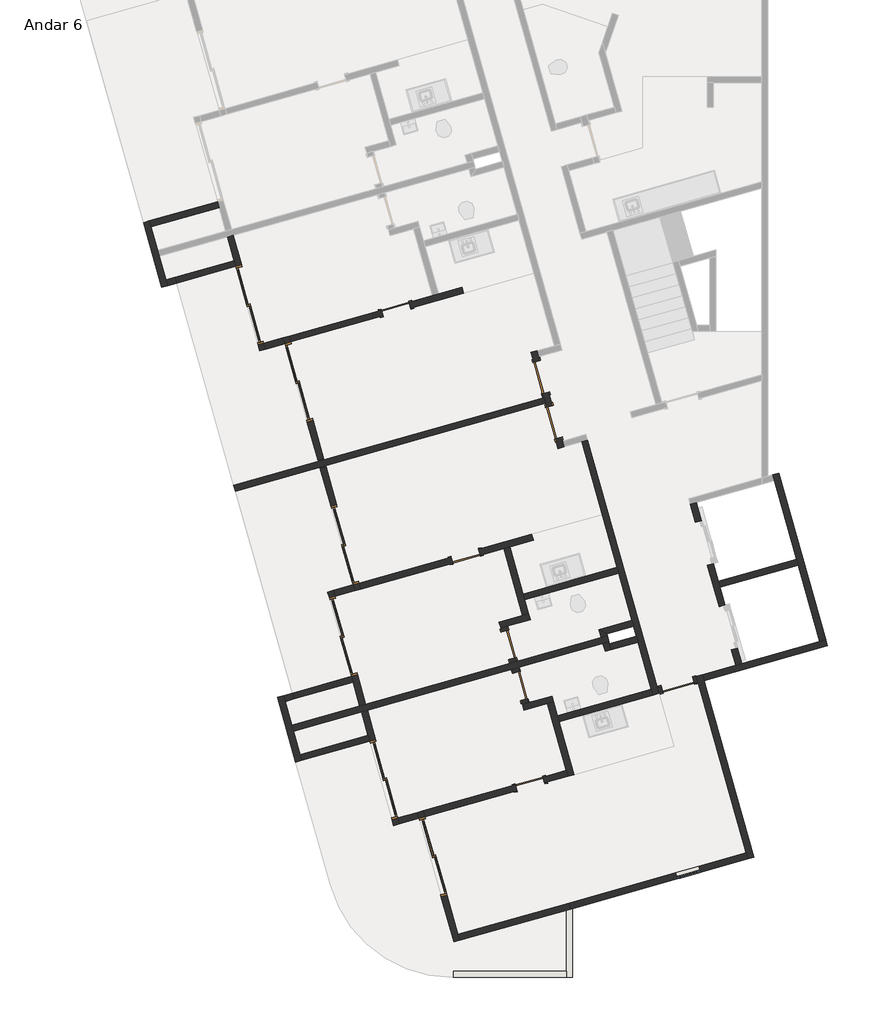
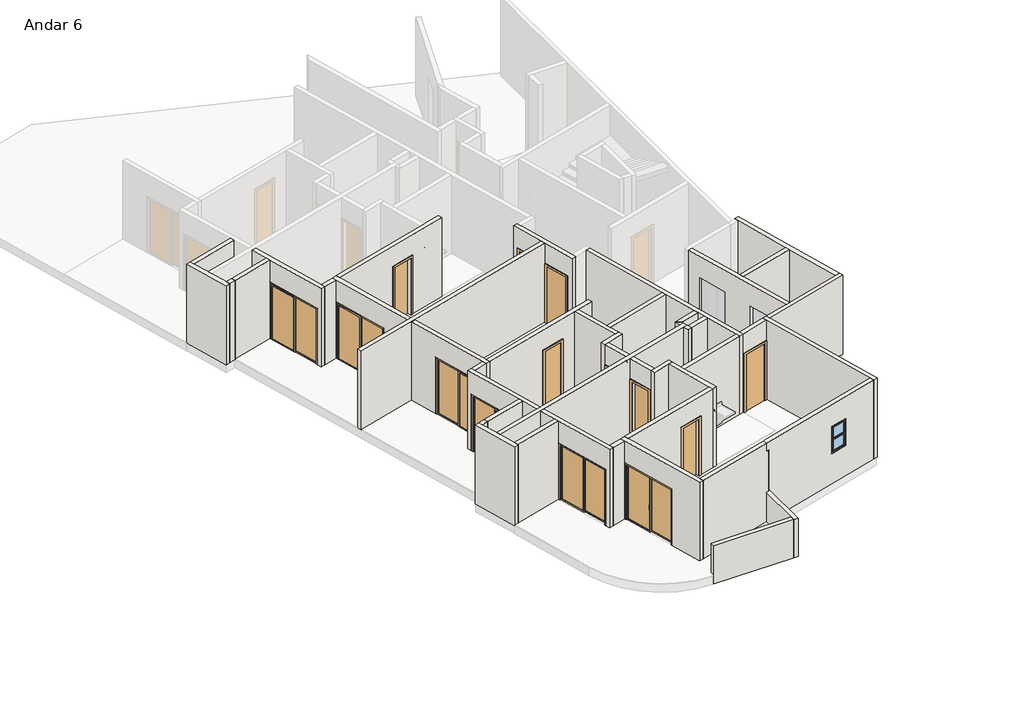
# One storey, part 1 of 3: 46 walls, 14 doors, 1 window.
"""IFC4 building model written with IfcOpenShell, lengths in millimetres."""

from ifc_helpers import new_model, si_unit, frame, origin, place, context, project, spatial, polyline, outline, extrude, faceted_brep, transform, mapped, element, save
from components import p2_80cm_9d4be4ef, p2_80cm_083652d6, p3_70cm_ef4d15e3, p3_70cm_0a698c7c, p4_correr_200cm_eaaa0877, p4_correr_200cm_830b8f20, bx_60cm_cef95a5c

model = new_model("IFC4")

# Units and contexts
model_context = context("Model", 3, world=origin())
ifc_project = project(units=[si_unit("LENGTHUNIT", "METRE", prefix="MILLI")], contexts=[model_context])

# Site, building, storey
site = spatial("IfcSite", under=ifc_project)
building = spatial("IfcBuilding", under=site)
storey = spatial("IfcBuildingStorey", under=building, Name="Andar 6", Elevation=68150.0)

# Doors
placement = place(None, origin())
p2_80cm_shape = p2_80cm_9d4be4ef(model_context)
element("IfcDoor", 1, ObjectType="M_Folha única1 : P2 - 80CM", at=placement, inside=storey, context=model_context, shape_type="MappedRepresentation", body=[
    mapped(p2_80cm_shape, transform((-80566.3456776, 19693.5423602, 68150.0), x_axis=(0.2717679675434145, -0.9623628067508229, 0.0), y_axis=(0.9623628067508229, 0.2717679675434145, 0.0), z_axis=(0.0, 0.0, 1.0))),
])
element("IfcDoor", 2, ObjectType="M_Folha única1 : P2 - 80CM", at=placement, inside=storey, context=model_context, shape_type="MappedRepresentation", body=[
    mapped(p2_80cm_shape, transform((-77213.6668366, 12144.847648, 68150.0), x_axis=(0.9623628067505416, 0.2717679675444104, 0.0), y_axis=(-0.2717679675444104, 0.9623628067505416, 0.0), z_axis=(0.0, 0.0, 1.0))),
])
p2_80cm_2_shape = p2_80cm_083652d6(model_context)
element("IfcDoor", 3, ObjectType="M_Folha única1 : P2 - 80CM", at=placement, inside=storey, context=model_context, shape_type="MappedRepresentation", body=[
    mapped(p2_80cm_2_shape, transform((-80253.8125149, 18586.8251325, 68150.0), x_axis=(-0.2717679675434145, 0.9623628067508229, 0.0), y_axis=(-0.9623628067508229, -0.2717679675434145, 0.0), z_axis=(0.0, 0.0, 1.0))),
])
p3_70cm_shape = p3_70cm_ef4d15e3(model_context)
element("IfcDoor", 4, ObjectType="M_Folha única1 : P3 - 70CM", at=placement, inside=storey, context=model_context, shape_type="MappedRepresentation", body=[
    mapped(p3_70cm_shape, transform((-84129.1775441, 21363.1168842, 68150.0), x_axis=(0.9623628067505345, 0.27176796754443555, 0.0), y_axis=(-0.27176796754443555, 0.9623628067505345, 0.0), z_axis=(0.0, 0.0, 1.0))),
])
element("IfcDoor", 5, ObjectType="M_Folha única1 : P3 - 70CM", at=placement, inside=storey, context=model_context, shape_type="MappedRepresentation", body=[
    mapped(p3_70cm_shape, transform((-80840.7851368, 9718.5269225, 68150.0), x_axis=(0.9623628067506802, 0.2717679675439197, 0.0), y_axis=(-0.2717679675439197, 0.9623628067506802, 0.0), z_axis=(0.0, 0.0, 1.0))),
])
element("IfcDoor", 6, ObjectType="M_Folha única1 : P3 - 70CM", at=placement, inside=storey, context=model_context, shape_type="MappedRepresentation", body=[
    mapped(p3_70cm_shape, transform((-81362.5862327, 13130.1209218, 68150.0), x_axis=(0.27176796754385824, -0.9623628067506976, 0.0), y_axis=(0.9623628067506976, 0.27176796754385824, 0.0), z_axis=(0.0, 0.0, 1.0))),
])
p3_70cm_2_shape = p3_70cm_0a698c7c(model_context)
element("IfcDoor", 7, ObjectType="M_Folha única1 : P3 - 70CM", at=placement, inside=storey, context=model_context, shape_type="MappedRepresentation", body=[
    mapped(p3_70cm_2_shape, transform((-81077.2298668, 12119.6399747, 68150.0), x_axis=(-0.27176796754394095, 0.9623628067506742, 0.0), y_axis=(-0.9623628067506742, -0.27176796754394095, 0.0), z_axis=(0.0, 0.0, 1.0))),
])
element("IfcDoor", 8, ObjectType="M_Folha única1 : P3 - 70CM", at=placement, inside=storey, context=model_context, shape_type="MappedRepresentation", body=[
    mapped(p3_70cm_2_shape, transform((-82417.0393485, 15300.2312016, 68150.0), x_axis=(0.9623628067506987, 0.2717679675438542, 0.0), y_axis=(-0.2717679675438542, 0.9623628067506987, 0.0), z_axis=(0.0, 0.0, 1.0))),
])
p4_correr_200cm_shape = p4_correr_200cm_eaaa0877(model_context)
element("IfcDoor", 9, ObjectType="Porta de correr dupla envidraçada sem revestimento : P4 - CORRER - 200CM", at=placement, inside=storey, context=model_context, shape_type="MappedRepresentation", body=[
    mapped(p4_correr_200cm_shape, transform((-86511.4049952, 19573.3416554, 68150.0), x_axis=(0.2717679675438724, -0.9623628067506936, 0.0), y_axis=(0.9623628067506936, 0.2717679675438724, 0.0), z_axis=(0.0, 0.0, 1.0))),
])
element("IfcDoor", 10, ObjectType="Porta de correr dupla envidraçada sem revestimento : P4 - CORRER - 200CM", at=placement, inside=storey, context=model_context, shape_type="MappedRepresentation", body=[
    mapped(p4_correr_200cm_shape, transform((-87717.4207223, 21466.8516126, 68150.0), x_axis=(0.2717679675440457, -0.9623628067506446, 0.0), y_axis=(0.9623628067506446, 0.2717679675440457, 0.0), z_axis=(0.0, 0.0, 1.0))),
])
element("IfcDoor", 11, ObjectType="Porta de correr dupla envidraçada sem revestimento : P4 - CORRER - 200CM", at=placement, inside=storey, context=model_context, shape_type="MappedRepresentation", body=[
    mapped(p4_correr_200cm_shape, transform((-84429.028315, 9822.2616509, 68150.0), x_axis=(-0.27176796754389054, 0.9623628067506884, 0.0), y_axis=(-0.9623628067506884, -0.27176796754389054, 0.0), z_axis=(0.0, 0.0, 1.0))),
])
element("IfcDoor", 12, ObjectType="Porta de correr dupla envidraçada sem revestimento : P4 - CORRER - 200CM", at=placement, inside=storey, context=model_context, shape_type="MappedRepresentation", body=[
    mapped(p4_correr_200cm_shape, transform((-83223.012588, 7928.7516937, 68150.0), x_axis=(-0.2717679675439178, 0.9623628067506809, 0.0), y_axis=(-0.9623628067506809, -0.2717679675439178, 0.0), z_axis=(0.0, 0.0, 1.0))),
])
p4_correr_200cm_2_shape = p4_correr_200cm_830b8f20(model_context)
element("IfcDoor", 13, ObjectType="Porta de correr dupla envidraçada sem revestimento : P4 - CORRER - 200CM", at=placement, inside=storey, context=model_context, shape_type="MappedRepresentation", body=[
    mapped(p4_correr_200cm_2_shape, transform((-85383.5679299, 15579.5360073, 68150.0), x_axis=(-0.2717679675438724, 0.9623628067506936, 0.0), y_axis=(-0.9623628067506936, -0.2717679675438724, 0.0), z_axis=(0.0, 0.0, 1.0))),
])
element("IfcDoor", 14, ObjectType="Porta de correr dupla envidraçada sem revestimento : P4 - CORRER - 200CM", at=placement, inside=storey, context=model_context, shape_type="MappedRepresentation", body=[
    mapped(p4_correr_200cm_2_shape, transform((-85420.9813965, 13334.8858955, 68150.0), x_axis=(-0.27176796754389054, 0.9623628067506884, 0.0), y_axis=(-0.9623628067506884, -0.27176796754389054, 0.0), z_axis=(0.0, 0.0, 1.0))),
])

# Walls
element("IfcWall", 15, ObjectType="Básica .15 - Externa", at=placement, inside=storey, context=model_context, shape_type="Brep", body=[
    faceted_brep([(-75344.9919691, 7919.3931149, 68150.0), (-76567.7484146, 12249.3196164, 68150.0), (-76608.5136097, 12393.6740374, 68150.0), (-76608.5136097, 12393.6740374, 71050.0), (-76567.7484146, 12249.3196164, 71050.0), (-75344.9919691, 7919.3931149, 71050.0), (-75489.3463901, 7878.6279198, 68150.0), (-75489.3463901, 7878.6279198, 71050.0), (-75530.1115852, 8022.9823408, 71050.0), (-76712.1028356, 12208.5544213, 71050.0), (-76752.8680308, 12352.9088423, 71050.0), (-76752.8680308, 12352.9088423, 68150.0), (-76712.1028356, 12208.5544213, 68150.0), (-75530.1115852, 8022.9823408, 68150.0)], [[[0, 1, 2, 3, 4, 5]], [[6, 7, 8, 9, 10, 11, 12, 13]], [[2, 1, 0, 6, 13, 12, 11]], [[5, 4, 3, 10, 9, 8, 7]], [[0, 5, 7, 6]], [[3, 2, 11, 10]]]),
])
element("IfcWall", 16, ObjectType="Básica .15 -  Interna", at=placement, inside=storey, context=model_context, shape_type="Brep", body=[
    faceted_brep([(-80529.815701, 19288.21464, 68150.0), (-80502.6389043, 19191.9783593, 68150.0), (-80461.8737092, 19047.6239383, 68150.0), (-80434.6969124, 18951.3876576, 68150.0), (-80434.6969124, 18951.3876576, 70250.0), (-80217.2825384, 18181.4974122, 70250.0), (-80217.2825384, 18181.4974122, 68150.0), (-80149.3405465, 17940.9067105, 68150.0), (-80149.3405465, 17940.9067105, 71050.0), (-80461.8737092, 19047.6239383, 71050.0), (-80502.6389043, 19191.9783593, 71050.0), (-80815.172067, 20298.695587, 71050.0), (-80815.172067, 20298.695587, 68150.0), (-80747.2300751, 20058.1048854, 68150.0), (-80747.2300751, 20058.1048854, 70250.0), (-80529.815701, 19288.21464, 70250.0), (-80290.3424914, 18992.1528527, 70250.0), (-80290.3424914, 18992.1528527, 68150.0), (-80385.46128, 19328.9798351, 68150.0), (-80385.46128, 19328.9798351, 70250.0), (-80602.8756541, 20098.8700805, 70250.0), (-80602.8756541, 20098.8700805, 68150.0), (-80630.0524508, 20195.1063612, 68150.0), (-80670.817646, 20339.4607822, 68150.0), (-80670.817646, 20339.4607822, 71050.0), (-80630.0524508, 20195.1063612, 71050.0), (-80045.7513206, 18126.0263266, 71050.0), (-80004.9861255, 17981.6719056, 71050.0), (-80004.9861255, 17981.6719056, 68150.0), (-80045.7513206, 18126.0263266, 68150.0), (-80072.9281174, 18222.2626073, 68150.0), (-80072.9281174, 18222.2626073, 70250.0)], [[[0, 1, 2, 3, 4, 5, 6, 7, 8, 9, 10, 11, 12, 13, 14, 15]], [[16, 17, 18, 19, 20, 21, 22, 23, 24, 25, 26, 27, 28, 29, 30, 31]], [[13, 12, 23, 22, 21]], [[18, 17, 3, 2, 1, 0]], [[30, 29, 28, 7, 6]], [[11, 10, 9, 8, 27, 26, 25, 24]], [[12, 11, 24, 23]], [[8, 7, 28, 27]], [[19, 18, 0, 15]], [[20, 19, 15, 14]], [[21, 20, 14, 13]], [[4, 3, 17, 16]], [[5, 4, 16, 31]], [[6, 5, 31, 30]]]),
])
element("IfcWall", 17, ObjectType="Básica .15 -  Interna", at=placement, inside=storey, context=model_context, shape_type="Brep", body=[
    faceted_brep([(-79571.9228624, 18103.967491, 68150.0), (-78702.2653663, 15024.4065094, 68150.0), (-78661.5001712, 14880.0520884, 68150.0), (-78335.3786101, 13725.2167203, 68150.0), (-78294.613415, 13580.8622993, 68150.0), (-78226.6714231, 13340.2715976, 68150.0), (-78185.906228, 13195.9171766, 68150.0), (-77818.8200634, 11896.0212586, 68150.0), (-77818.8200634, 11896.0212586, 71050.0), (-78185.906228, 13195.9171766, 71050.0), (-78226.6714231, 13340.2715976, 71050.0), (-78294.613415, 13580.8622993, 71050.0), (-78335.3786101, 13725.2167203, 71050.0), (-78661.5001712, 14880.0520884, 71050.0), (-78702.2653663, 15024.4065094, 71050.0), (-79571.9228624, 18103.967491, 71050.0), (-79427.5684414, 18144.7326862, 68150.0), (-79427.5684414, 18144.7326862, 71050.0), (-77715.2308375, 12081.1408747, 71050.0), (-77674.4656424, 11936.7864537, 71050.0), (-77674.4656424, 11936.7864537, 68150.0), (-77715.2308375, 12081.1408747, 68150.0)], [[[0, 1, 2, 3, 4, 5, 6, 7, 8, 9, 10, 11, 12, 13, 14, 15]], [[16, 17, 18, 19, 20, 21]], [[7, 6, 5, 4, 3, 2, 1, 0, 16, 21, 20]], [[15, 14, 13, 12, 11, 10, 9, 8, 19, 18, 17]], [[0, 15, 17, 16]], [[8, 7, 20, 19]]]),
])
element("IfcWall", 18, ObjectType="Básica .15 -  Interna", at=placement, inside=storey, context=model_context, shape_type="Brep", body=[
    faceted_brep([(-85017.5646639, 11630.3683862, 71050.0), (-85180.6254444, 12207.7860702, 71050.0), (-85221.3906395, 12352.1404912, 71050.0), (-85805.6917697, 14421.2205257, 71050.0), (-85805.6917697, 14421.2205257, 68150.0), (-85764.9265746, 14276.8661047, 68150.0), (-85764.9265746, 14276.8661047, 70250.0), (-85221.3906395, 12352.1404912, 70250.0), (-85221.3906395, 12352.1404912, 68150.0), (-85180.6254444, 12207.7860702, 68150.0), (-85017.5646639, 11630.3683862, 68150.0), (-85661.3373487, 14461.9857209, 71050.0), (-85620.5721536, 14317.6312998, 71050.0), (-84873.2102428, 11671.1335813, 71050.0), (-84873.2102428, 11671.1335813, 68150.0), (-85077.0362185, 12392.9056863, 68150.0), (-85077.0362185, 12392.9056863, 70250.0), (-85620.5721536, 14317.6312998, 70250.0), (-85620.5721536, 14317.6312998, 68150.0), (-85661.3373487, 14461.9857209, 68150.0)], [[[0, 1, 2, 3, 4, 5, 6, 7, 8, 9, 10]], [[11, 12, 13, 14, 15, 16, 17, 18, 19]], [[4, 19, 18, 5]], [[14, 10, 9, 8, 15]], [[3, 2, 1, 0, 13, 12, 11]], [[4, 3, 11, 19]], [[0, 10, 14, 13]], [[17, 6, 5, 18]], [[6, 17, 16, 7]], [[7, 16, 15, 8]]]),
])
element("IfcWall", 19, ObjectType="Básica .15 -  Interna", at=placement, inside=storey, context=model_context, shape_type="Brep", body=[
    faceted_brep([(-82710.8886682, 5839.2890616, 71050.0), (-83566.957766, 8870.7319029, 71050.0), (-83607.7229611, 9015.0863239, 71050.0), (-83607.7229611, 9015.0863239, 68150.0), (-83566.957766, 8870.7319029, 68150.0), (-83566.957766, 8870.7319029, 70250.0), (-83023.4218309, 6946.0062894, 70250.0), (-83023.4218309, 6946.0062894, 68150.0), (-82710.8886682, 5839.2890616, 68150.0), (-83463.3685401, 9055.851519, 71050.0), (-83422.603345, 8911.497098, 71050.0), (-82607.2994424, 6024.4086777, 71050.0), (-82566.5342472, 5880.0542567, 71050.0), (-82566.5342472, 5880.0542567, 68150.0), (-82607.2994424, 6024.4086777, 68150.0), (-82879.0674099, 6986.7714845, 68150.0), (-82879.0674099, 6986.7714845, 70250.0), (-83422.603345, 8911.497098, 70250.0), (-83422.603345, 8911.497098, 68150.0), (-83463.3685401, 9055.851519, 68150.0)], [[[0, 1, 2, 3, 4, 5, 6, 7, 8]], [[9, 10, 11, 12, 13, 14, 15, 16, 17, 18, 19]], [[3, 19, 18, 4]], [[13, 8, 7, 15, 14]], [[2, 1, 0, 12, 11, 10, 9]], [[3, 2, 9, 19]], [[0, 8, 13, 12]], [[17, 5, 4, 18]], [[5, 17, 16, 6]], [[6, 16, 15, 7]]]),
])
element("IfcWall", 20, ObjectType="Básica .15 -  Interna", at=placement, inside=storey, context=model_context, shape_type="Brep", body=[
    faceted_brep([(-86046.8404698, 17652.2925145, 68150.0), (-86046.8404698, 17652.2925145, 71050.0), (-86855.3501733, 20515.3218646, 71050.0), (-86896.1153684, 20659.6762856, 71050.0), (-86896.1153684, 20659.6762856, 68150.0), (-86855.3501733, 20515.3218646, 68150.0), (-86855.3501733, 20515.3218646, 70250.0), (-86311.8142382, 18590.596251, 70250.0), (-86311.8142382, 18590.596251, 68150.0), (-85902.4860488, 17693.0577096, 71050.0), (-85902.4860488, 17693.0577096, 68150.0), (-86167.4598172, 18631.3614462, 68150.0), (-86167.4598172, 18631.3614462, 70250.0), (-86710.9957523, 20556.0870597, 70250.0), (-86710.9957523, 20556.0870597, 68150.0), (-86751.7609474, 20700.4414807, 68150.0), (-86751.7609474, 20700.4414807, 71050.0), (-86710.9957523, 20556.0870597, 71050.0)], [[[0, 1, 2, 3, 4, 5, 6, 7, 8]], [[9, 10, 11, 12, 13, 14, 15, 16, 17]], [[10, 0, 8, 11]], [[4, 15, 14, 5]], [[1, 0, 10, 9]], [[3, 2, 1, 9, 17, 16]], [[4, 3, 16, 15]], [[7, 12, 11, 8]], [[12, 7, 6, 13]], [[13, 6, 5, 14]]]),
])
element("IfcWall", 21, ObjectType="Básica .15 - Externa", at=placement, inside=storey, context=model_context, shape_type="Brep", body=[
    faceted_brep([(-79945.4990038, 6620.2256515, 69250.0), (-79945.4990038, 6620.2256515, 68150.0), (-79945.4990038, 6620.2256515, 67850.0), (-79945.4990038, 5119.4122055, 67850.0), (-79945.4990038, 4969.4122055, 67850.0), (-79945.4990038, 4969.4122055, 69250.0), (-79945.4990038, 5119.4122055, 69250.0), (-79795.4990038, 6662.5851389, 67850.0), (-79795.4990038, 6662.5851389, 69250.0), (-79795.4990038, 4969.4122055, 69250.0), (-79795.4990038, 4969.4122055, 67850.0), (-79850.1164062, 6647.1613711, 67850.0)], [[[0, 1, 2, 3, 4, 5, 6]], [[7, 8, 9, 10]], [[4, 3, 2, 11, 7, 10]], [[0, 6, 5, 9, 8]], [[5, 4, 10, 9]], [[0, 8, 7, 11, 2, 1]]]),
])
element("IfcWall", 22, ObjectType="Básica .15 - Externa", at=placement, inside=storey, context=model_context, shape_type="SweptSolid", body=[
    extrude(outline(polyline([(-82713.5540687, 5119.4122055), (-79945.4990038, 5119.4122055), (-79945.4990038, 4969.4122055), (-82713.5540687, 4969.4122055), (-82713.5540687, 5119.4122055)])), frame((0.0, 0.0, 67850.0), z_axis=(0.0, 0.0, 1.0), x_axis=(1.0, 0.0, 0.0)), (0.0, 0.0, 1.0), 1400.0),
])
element("IfcWall", 23, ObjectType="Básica .15 - Externa", at=placement, inside=storey, context=model_context, shape_type="Brep", body=[
    faceted_brep([(-73581.8825825, 13248.3842954, 68150.0), (-73726.2370035, 13207.6191002, 68150.0), (-75646.150803, 12665.442005, 68150.0), (-75790.505224, 12624.6768098, 68150.0), (-76608.5136097, 12393.6740374, 68150.0), (-76608.5136097, 12393.6740374, 71050.0), (-75790.505224, 12624.6768098, 71050.0), (-75646.150803, 12665.442005, 71050.0), (-73726.2370035, 13207.6191002, 71050.0), (-73581.8825825, 13248.3842954, 71050.0), (-73541.1173874, 13104.0298743, 68150.0), (-73541.1173874, 13104.0298743, 71050.0), (-76567.7484146, 12249.3196164, 71050.0), (-76567.7484146, 12249.3196164, 68150.0)], [[[0, 1, 2, 3, 4, 5, 6, 7, 8, 9]], [[10, 11, 12, 13]], [[4, 3, 2, 1, 0, 10, 13]], [[9, 8, 7, 6, 5, 12, 11]], [[0, 9, 11, 10]], [[5, 4, 13, 12]]]),
])
element("IfcWall", 24, ObjectType="Básica .15 - Externa", at=placement, inside=storey, context=model_context, shape_type="Brep", body=[
    faceted_brep([(-74881.2508656, 17297.6610289, 68150.0), (-74840.4856705, 17153.3066079, 68150.0), (-74296.9497354, 15228.5809944, 68150.0), (-74256.1845402, 15084.2265734, 68150.0), (-73726.2370035, 13207.6191002, 68150.0), (-73726.2370035, 13207.6191002, 71050.0), (-74256.1845402, 15084.2265734, 71050.0), (-74296.9497354, 15228.5809944, 71050.0), (-74840.4856705, 17153.3066079, 71050.0), (-74881.2508656, 17297.6610289, 71050.0), (-74736.8964446, 17338.426224, 68150.0), (-74736.8964446, 17338.426224, 71050.0), (-73581.8825825, 13248.3842954, 71050.0), (-73581.8825825, 13248.3842954, 68150.0)], [[[0, 1, 2, 3, 4, 5, 6, 7, 8, 9]], [[10, 11, 12, 13]], [[4, 3, 2, 1, 0, 10, 13]], [[9, 8, 7, 6, 5, 12, 11]], [[0, 9, 11, 10]], [[5, 4, 13, 12]]]),
])
element("IfcWall", 25, ObjectType="Básica .15 -  Interna", at=placement, inside=storey, context=model_context, shape_type="Brep", body=[
    faceted_brep([(-76483.167581, 15077.4768805, 68150.0), (-76197.8112151, 14066.9959334, 68150.0), (-76197.8112151, 14066.9959334, 70275.0), (-75898.8664508, 13008.396846, 70275.0), (-75898.8664508, 13008.396846, 68150.0), (-75790.505224, 12624.6768098, 68150.0), (-75790.505224, 12624.6768098, 71050.0), (-76904.7538909, 16570.3643175, 71050.0), (-76904.7538909, 16570.3643175, 68150.0), (-76782.1123453, 16136.075968, 68150.0), (-76782.1123453, 16136.075968, 70275.0), (-76483.167581, 15077.4768805, 70275.0), (-76053.4567941, 14107.7611286, 70275.0), (-76053.4567941, 14107.7611286, 68150.0), (-76176.0983397, 14542.0494781, 68150.0), (-76216.8635348, 14686.4038991, 68150.0), (-76338.81316, 15118.2420757, 68150.0), (-76338.81316, 15118.2420757, 70275.0), (-76637.7579243, 16176.8411631, 70275.0), (-76637.7579243, 16176.8411631, 68150.0), (-76760.3994699, 16611.1295126, 68150.0), (-76760.3994699, 16611.1295126, 71050.0), (-76216.8635348, 14686.4038991, 71050.0), (-76176.0983397, 14542.0494781, 71050.0), (-75646.150803, 12665.442005, 71050.0), (-75646.150803, 12665.442005, 68150.0), (-75754.5120298, 13049.1620412, 68150.0), (-75754.5120298, 13049.1620412, 70275.0)], [[[0, 1, 2, 3, 4, 5, 6, 7, 8, 9, 10, 11]], [[12, 13, 14, 15, 16, 17, 18, 19, 20, 21, 22, 23, 24, 25, 26, 27]], [[9, 8, 20, 19]], [[26, 25, 5, 4]], [[16, 15, 14, 13, 1, 0]], [[7, 6, 24, 23, 22, 21]], [[8, 7, 21, 20]], [[6, 5, 25, 24]], [[4, 3, 27, 26]], [[2, 1, 13, 12]], [[3, 2, 12, 27]], [[19, 18, 10, 9]], [[17, 16, 0, 11]], [[18, 17, 11, 10]]]),
])
element("IfcWall", 26, ObjectType="Básica .15 -  Interna", at=placement, inside=storey, context=model_context, shape_type="SweptSolid", body=[
    extrude(outline(polyline([(-74256.1845402, 15084.2265734), (-76176.0983397, 14542.0494781), (-76216.8635348, 14686.4038991), (-74296.9497354, 15228.5809944), (-74256.1845402, 15084.2265734)])), frame((0.0, 0.0, 68150.0), z_axis=(0.0, 0.0, 1.0), x_axis=(1.0, 0.0, 0.0)), (0.0, 0.0, 1.0), 2900.0),
])
element("IfcWall", 27, ObjectType="Básica .15 -  Interna", at=placement, inside=storey, context=model_context, shape_type="Brep", body=[
    faceted_brep([(-82566.5342472, 5880.0542567, 68150.0), (-79945.4990038, 6620.2256515, 68150.0), (-79850.1164062, 6647.1613711, 68150.0), (-79850.1164062, 6647.1613711, 70750.0), (-79945.4990038, 6620.2256515, 70750.0), (-79945.4990038, 6620.2256515, 71050.0), (-82566.5342472, 5880.0542567, 71050.0), (-82607.2994424, 6024.4086777, 68150.0), (-82607.2994424, 6024.4086777, 71050.0), (-79945.4990038, 6776.0920243, 71050.0), (-79945.4990038, 6776.0920243, 70750.0), (-79890.8816014, 6791.5157921, 70750.0), (-79890.8816014, 6791.5157921, 68150.0), (-79945.4990038, 6776.0920243, 68150.0)], [[[0, 1, 2, 3, 4, 5, 6]], [[7, 8, 9, 10, 11, 12, 13]], [[2, 1, 0, 7, 13, 12]], [[6, 5, 9, 8]], [[0, 6, 8, 7]], [[2, 12, 11, 3]], [[10, 4, 3, 11]], [[5, 4, 10, 9]]]),
])
element("IfcWall", 28, ObjectType="Básica .15 -  Interna", at=placement, inside=storey, context=model_context, shape_type="Brep", body=[
    faceted_brep([(-85221.3906395, 12352.1404912, 68150.0), (-86668.7560772, 11943.4094383, 68150.0), (-86668.7560772, 11943.4094383, 71050.0), (-85221.3906395, 12352.1404912, 71050.0), (-85221.3906395, 12352.1404912, 70250.0), (-85180.6254444, 12207.7860702, 68150.0), (-85180.6254444, 12207.7860702, 71050.0), (-86627.9908821, 11799.0550173, 71050.0), (-86627.9908821, 11799.0550173, 68150.0)], [[[0, 1, 2, 3, 4]], [[5, 6, 7, 8]], [[1, 0, 5, 8]], [[2, 1, 8, 7]], [[3, 2, 7, 6]], [[0, 4, 3, 6, 5]]]),
])
element("IfcWall", 29, ObjectType="Básica .15 - Externa", at=placement, inside=storey, context=model_context, shape_type="Brep", body=[
    faceted_brep([(-86444.4738537, 10292.215871, 68150.0), (-86485.2390488, 10436.570292, 68150.0), (-86648.2998293, 11013.987976, 68150.0), (-86689.0650245, 11158.342397, 68150.0), (-86852.125805, 11735.7600811, 68150.0), (-86892.8910001, 11880.1145021, 68150.0), (-86892.8910001, 11880.1145021, 71050.0), (-86852.125805, 11735.7600811, 71050.0), (-86689.0650245, 11158.342397, 71050.0), (-86648.2998293, 11013.987976, 71050.0), (-86485.2390488, 10436.570292, 71050.0), (-86444.4738537, 10292.215871, 71050.0), (-86588.8282747, 10251.4506758, 68150.0), (-86588.8282747, 10251.4506758, 71050.0), (-87037.2454211, 11839.349307, 71050.0), (-87037.2454211, 11839.349307, 68150.0)], [[[0, 1, 2, 3, 4, 5, 6, 7, 8, 9, 10, 11]], [[12, 13, 14, 15]], [[5, 4, 3, 2, 1, 0, 12, 15]], [[11, 10, 9, 8, 7, 6, 14, 13]], [[6, 5, 15, 14]], [[0, 11, 13, 12]]]),
])
element("IfcWall", 30, ObjectType="Básica .15 -  Interna", at=placement, inside=storey, context=model_context, shape_type="Brep", body=[
    faceted_brep([(-86444.4738537, 10292.215871, 68150.0), (-84772.9734931, 10764.2418601, 68150.0), (-84772.9734931, 10764.2418601, 70250.0), (-84772.9734931, 10764.2418601, 71050.0), (-86444.4738537, 10292.215871, 71050.0), (-86485.2390488, 10436.570292, 68150.0), (-86485.2390488, 10436.570292, 71050.0), (-84813.7386882, 10908.5962811, 71050.0), (-84813.7386882, 10908.5962811, 68150.0)], [[[0, 1, 2, 3, 4]], [[5, 6, 7, 8]], [[1, 0, 5, 8]], [[4, 3, 7, 6]], [[0, 4, 6, 5]], [[3, 2, 1, 8, 7]]]),
])
element("IfcWall", 31, ObjectType="Básica .15 - Externa", at=placement, inside=storey, context=model_context, shape_type="Brep", body=[
    faceted_brep([(-89732.866261, 21936.8058326, 68150.0), (-89773.6314561, 22081.1602536, 68150.0), (-89936.6922366, 22658.5779377, 68150.0), (-89977.4574318, 22802.9323587, 68150.0), (-90140.5182123, 23380.3500428, 68150.0), (-90181.2834074, 23524.7044638, 68150.0), (-90181.2834074, 23524.7044638, 71050.0), (-90140.5182123, 23380.3500428, 71050.0), (-89977.4574318, 22802.9323587, 71050.0), (-89936.6922366, 22658.5779377, 71050.0), (-89773.6314561, 22081.1602536, 71050.0), (-89732.866261, 21936.8058326, 71050.0), (-89877.220682, 21896.0406375, 68150.0), (-89877.220682, 21896.0406375, 71050.0), (-90325.6378284, 23483.9392686, 71050.0), (-90325.6378284, 23483.9392686, 68150.0)], [[[0, 1, 2, 3, 4, 5, 6, 7, 8, 9, 10, 11]], [[12, 13, 14, 15]], [[5, 4, 3, 2, 1, 0, 12, 15]], [[11, 10, 9, 8, 7, 6, 14, 13]], [[0, 11, 13, 12]], [[6, 5, 15, 14]]]),
])
element("IfcWall", 32, ObjectType="Básica .15 -  Interna", at=placement, inside=storey, context=model_context, shape_type="Brep", body=[
    faceted_brep([(-88102.1310955, 22553.1862428, 68150.0), (-89549.4965332, 22144.4551899, 68150.0), (-89549.4965332, 22144.4551899, 71050.0), (-88102.1310955, 22553.1862428, 71050.0), (-88061.3659003, 22408.8318218, 68150.0), (-88061.3659003, 22408.8318218, 70250.0), (-88061.3659003, 22408.8318218, 71050.0), (-89508.731338, 22000.1007688, 71050.0), (-89508.731338, 22000.1007688, 68150.0)], [[[0, 1, 2, 3]], [[4, 5, 6, 7, 8]], [[1, 0, 4, 8]], [[2, 1, 8, 7]], [[3, 2, 7, 6]], [[0, 3, 6, 5, 4]]]),
])
element("IfcWall", 33, ObjectType="Básica .15 -  Interna", at=placement, inside=storey, context=model_context, shape_type="Brep", body=[
    faceted_brep([(-90140.5182123, 23380.3500428, 68150.0), (-88469.0178517, 23852.3760319, 68150.0), (-88469.0178517, 23852.3760319, 71050.0), (-90140.5182123, 23380.3500428, 71050.0), (-90181.2834074, 23524.7044638, 68150.0), (-90181.2834074, 23524.7044638, 71050.0), (-88509.7830468, 23996.7304529, 71050.0), (-88509.7830468, 23996.7304529, 70250.0), (-88509.7830468, 23996.7304529, 68150.0)], [[[0, 1, 2, 3]], [[4, 5, 6, 7, 8]], [[1, 0, 4, 8]], [[3, 2, 6, 5]], [[0, 3, 5, 4]], [[2, 1, 8, 7, 6]]]),
])
element("IfcWall", 34, ObjectType="Básica .15 -  Interna", at=placement, inside=storey, context=model_context, shape_type="Brep", body=[
    faceted_brep([(-86896.1153684, 20659.6762856, 68150.0), (-87373.4755442, 20524.8714034, 68150.0), (-87373.4755442, 20524.8714034, 70250.0), (-87373.4755442, 20524.8714034, 71050.0), (-86896.1153684, 20659.6762856, 71050.0), (-86855.3501733, 20515.3218646, 68150.0), (-86855.3501733, 20515.3218646, 70250.0), (-86855.3501733, 20515.3218646, 71050.0), (-87332.7103491, 20380.5169824, 71050.0), (-87332.7103491, 20380.5169824, 68150.0)], [[[0, 1, 2, 3, 4]], [[5, 6, 7, 8, 9]], [[1, 0, 5, 9]], [[4, 3, 8, 7]], [[0, 4, 7, 6, 5]], [[3, 2, 1, 9, 8]]]),
])
element("IfcWall", 35, ObjectType="Básica .15 -  Interna", at=placement, inside=storey, context=model_context, shape_type="Brep", body=[
    faceted_brep([(-83607.7229611, 9015.0863239, 68150.0), (-84085.083137, 8880.2814417, 68150.0), (-84085.083137, 8880.2814417, 70250.0), (-84085.083137, 8880.2814417, 71050.0), (-83607.7229611, 9015.0863239, 71050.0), (-83566.957766, 8870.7319029, 68150.0), (-83566.957766, 8870.7319029, 70250.0), (-83566.957766, 8870.7319029, 71050.0), (-84044.3179418, 8735.9270207, 71050.0), (-84044.3179418, 8735.9270207, 68150.0)], [[[0, 1, 2, 3, 4]], [[5, 6, 7, 8, 9]], [[1, 0, 5, 9]], [[4, 3, 8, 7]], [[3, 2, 1, 9, 8]], [[0, 4, 7, 6, 5]]]),
])
element("IfcWall", 36, ObjectType="Básica .15 -  Interna", at=placement, inside=storey, context=model_context, shape_type="Brep", body=[
    faceted_brep([(-85183.9771729, 14596.790603, 68150.0), (-85661.3373487, 14461.9857209, 68150.0), (-85661.3373487, 14461.9857209, 71050.0), (-85183.9771729, 14596.790603, 71050.0), (-85183.9771729, 14596.790603, 70250.0), (-85143.2119778, 14452.436182, 68150.0), (-85143.2119778, 14452.436182, 71050.0), (-85620.5721536, 14317.6312998, 71050.0), (-85620.5721536, 14317.6312998, 70250.0), (-85620.5721536, 14317.6312998, 68150.0)], [[[0, 1, 2, 3, 4]], [[5, 6, 7, 8, 9]], [[1, 0, 5, 9]], [[3, 2, 7, 6]], [[2, 1, 9, 8, 7]], [[0, 4, 3, 6, 5]]]),
])
element("IfcWall", 37, ObjectType="Básica .15 -  Interna", at=placement, inside=storey, context=model_context, shape_type="Brep", body=[
    faceted_brep([(-87477.0647701, 20339.7517872, 71050.0), (-88061.3659003, 22408.8318218, 71050.0), (-88102.1310955, 22553.1862428, 71050.0), (-88265.191876, 23130.6039268, 71050.0), (-88265.191876, 23130.6039268, 68150.0), (-88102.1310955, 22553.1862428, 68150.0), (-88061.3659003, 22408.8318218, 68150.0), (-88061.3659003, 22408.8318218, 70250.0), (-87517.8299653, 20484.1062083, 70250.0), (-87517.8299653, 20484.1062083, 68150.0), (-87477.0647701, 20339.7517872, 68150.0), (-88120.837455, 23171.369122, 71050.0), (-87373.4755442, 20524.8714034, 71050.0), (-87332.7103491, 20380.5169824, 71050.0), (-87332.7103491, 20380.5169824, 68150.0), (-87373.4755442, 20524.8714034, 68150.0), (-87373.4755442, 20524.8714034, 70250.0), (-87917.0114793, 22449.5970169, 70250.0), (-87917.0114793, 22449.5970169, 68150.0), (-88120.837455, 23171.369122, 68150.0)], [[[0, 1, 2, 3, 4, 5, 6, 7, 8, 9, 10]], [[11, 12, 13, 14, 15, 16, 17, 18, 19]], [[14, 10, 9, 15]], [[4, 19, 18, 6, 5]], [[3, 2, 1, 0, 13, 12, 11]], [[0, 10, 14, 13]], [[4, 3, 11, 19]], [[8, 16, 15, 9]], [[16, 8, 7, 17]], [[17, 7, 6, 18]]]),
])
element("IfcWall", 38, ObjectType="Básica .15 -  Interna", at=placement, inside=storey, context=model_context, shape_type="Brep", body=[
    faceted_brep([(-85143.2119778, 14452.436182, 71050.0), (-85183.9771729, 14596.790603, 71050.0), (-85992.4868763, 17459.8199531, 71050.0), (-85992.4868763, 17459.8199531, 68150.0), (-85727.513108, 16521.5162165, 68150.0), (-85727.513108, 16521.5162165, 70250.0), (-85183.9771729, 14596.790603, 70250.0), (-85183.9771729, 14596.790603, 68150.0), (-85143.2119778, 14452.436182, 68150.0), (-85848.1324553, 17500.5851482, 71050.0), (-85039.6227519, 14637.5557982, 71050.0), (-84998.8575568, 14493.2013772, 71050.0), (-84998.8575568, 14493.2013772, 68150.0), (-85039.6227519, 14637.5557982, 68150.0), (-85039.6227519, 14637.5557982, 70250.0), (-85583.158687, 16562.2814117, 70250.0), (-85583.158687, 16562.2814117, 68150.0), (-85848.1324553, 17500.5851482, 68150.0)], [[[0, 1, 2, 3, 4, 5, 6, 7, 8]], [[9, 10, 11, 12, 13, 14, 15, 16, 17]], [[3, 17, 16, 4]], [[12, 8, 7, 13]], [[2, 1, 0, 11, 10, 9]], [[3, 2, 9, 17]], [[0, 8, 12, 11]], [[15, 5, 4, 16]], [[5, 15, 14, 6]], [[6, 14, 13, 7]]]),
])
element("IfcWall", 39, ObjectType="Básica .15 -  Interna", at=placement, inside=storey, context=model_context, shape_type="SweptSolid", body=[
    extrude(outline(polyline([(-80461.8737092, 19047.6239383), (-88068.36111, 16899.5778931), (-88109.1263052, 17043.9323141), (-80502.6389043, 19191.9783593), (-80461.8737092, 19047.6239383)])), frame((0.0, 0.0, 68150.0), z_axis=(0.0, 0.0, 1.0), x_axis=(1.0, 0.0, 0.0)), (0.0, 0.0, 1.0), 2900.0),
])
element("IfcWall", 40, ObjectType="Básica .15 -  Interna", at=placement, inside=storey, context=model_context, shape_type="Brep", body=[
    faceted_brep([(-78945.0553533, 13345.2242614, 68150.0), (-81168.1134369, 12717.4402563, 68150.0), (-81312.4678579, 12676.6750612, 68150.0), (-84873.2102428, 11671.1335813, 68150.0), (-85017.5646639, 11630.3683862, 68150.0), (-86689.0650245, 11158.342397, 68150.0), (-86689.0650245, 11158.342397, 71050.0), (-85017.5646639, 11630.3683862, 71050.0), (-84873.2102428, 11671.1335813, 71050.0), (-81312.4678579, 12676.6750612, 71050.0), (-81168.1134369, 12717.4402563, 71050.0), (-78945.0553533, 13345.2242614, 71050.0), (-78904.2901581, 13200.8698403, 68150.0), (-78904.2901581, 13200.8698403, 71050.0), (-81127.3482417, 12573.0858353, 71050.0), (-81271.7026627, 12532.3206402, 71050.0), (-84832.4450477, 11526.7791603, 71050.0), (-84976.7994687, 11486.0139651, 71050.0), (-86648.2998293, 11013.987976, 71050.0), (-86648.2998293, 11013.987976, 68150.0), (-84976.7994687, 11486.0139651, 68150.0), (-84832.4450477, 11526.7791603, 68150.0), (-81271.7026627, 12532.3206402, 68150.0), (-81127.3482417, 12573.0858353, 68150.0)], [[[0, 1, 2, 3, 4, 5, 6, 7, 8, 9, 10, 11]], [[12, 13, 14, 15, 16, 17, 18, 19, 20, 21, 22, 23]], [[5, 4, 3, 2, 1, 0, 12, 23, 22, 21, 20, 19]], [[11, 10, 9, 8, 7, 6, 18, 17, 16, 15, 14, 13]], [[0, 11, 13, 12]], [[6, 5, 19, 18]]]),
])
element("IfcWall", 41, ObjectType="Básica .15 -  Interna", at=placement, inside=storey, context=model_context, shape_type="Brep", body=[
    faceted_brep([(-84188.6723628, 8695.1618256, 71050.0), (-84772.9734931, 10764.2418601, 71050.0), (-84813.7386882, 10908.5962811, 71050.0), (-84976.7994687, 11486.0139651, 71050.0), (-84976.7994687, 11486.0139651, 68150.0), (-84813.7386882, 10908.5962811, 68150.0), (-84772.9734931, 10764.2418601, 68150.0), (-84772.9734931, 10764.2418601, 70250.0), (-84229.437558, 8839.5162466, 70250.0), (-84229.437558, 8839.5162466, 68150.0), (-84188.6723628, 8695.1618256, 68150.0), (-84832.4450477, 11526.7791603, 71050.0), (-84085.083137, 8880.2814417, 71050.0), (-84044.3179418, 8735.9270207, 71050.0), (-84044.3179418, 8735.9270207, 68150.0), (-84085.083137, 8880.2814417, 68150.0), (-84085.083137, 8880.2814417, 70250.0), (-84628.6190721, 10805.0070552, 70250.0), (-84628.6190721, 10805.0070552, 68150.0), (-84832.4450477, 11526.7791603, 68150.0)], [[[0, 1, 2, 3, 4, 5, 6, 7, 8, 9, 10]], [[11, 12, 13, 14, 15, 16, 17, 18, 19]], [[14, 10, 9, 15]], [[4, 19, 18, 6, 5]], [[3, 2, 1, 0, 13, 12, 11]], [[0, 10, 14, 13]], [[4, 3, 11, 19]], [[17, 7, 6, 18]], [[7, 17, 16, 8]], [[8, 16, 15, 9]]]),
])
element("IfcWall", 42, ObjectType="Básica .15 - Externa", at=placement, inside=storey, context=model_context, shape_type="Brep", body=[
    faceted_brep([(-79850.1164062, 6647.1613711, 70750.0), (-79850.1164062, 6647.1613711, 68150.0), (-75489.3463901, 7878.6279198, 68150.0), (-75489.3463901, 7878.6279198, 71050.0), (-79850.1164062, 6647.1613711, 71050.0), (-79945.4990038, 6620.2256515, 71050.0), (-79945.4990038, 6620.2256515, 70750.0), (-76649.6431667, 7550.9640756, 69250.0), (-77227.0608508, 7387.9032951, 69250.0), (-77227.0608508, 7387.9032951, 70250.0), (-76649.6431667, 7550.9640756, 70250.0), (-79890.8816014, 6791.5157921, 68150.0), (-79890.8816014, 6791.5157921, 70750.0), (-79945.4990038, 6776.0920243, 70750.0), (-79945.4990038, 6776.0920243, 71050.0), (-79890.8816014, 6791.5157921, 71050.0), (-75530.1115852, 8022.9823408, 71050.0), (-75530.1115852, 8022.9823408, 68150.0), (-76690.4083619, 7695.3184966, 69250.0), (-76690.4083619, 7695.3184966, 70250.0), (-77267.8260459, 7532.2577161, 70250.0), (-77267.8260459, 7532.2577161, 69250.0)], [[[0, 1, 2, 3, 4, 5, 6], [7, 8, 9, 10]], [[11, 12, 13, 14, 15, 16, 17], [18, 19, 20, 21]], [[2, 1, 11, 17]], [[5, 4, 3, 16, 15, 14]], [[18, 21, 8, 7]], [[21, 20, 9, 8]], [[20, 19, 10, 9]], [[19, 18, 7, 10]], [[3, 2, 17, 16]], [[0, 12, 11, 1]], [[6, 13, 12, 0]], [[6, 5, 14, 13]]]),
])
element("IfcWall", 43, ObjectType="Básica .15 - Externa", at=placement, inside=storey, context=model_context, shape_type="SweptSolid", body=[
    extrude(outline(polyline([(-89773.6314561, 22081.1602536), (-89549.4965332, 22144.4551899), (-89508.731338, 22000.1007688), (-89732.866261, 21936.8058326), (-89773.6314561, 22081.1602536)])), frame((0.0, 0.0, 68150.0), z_axis=(0.0, 0.0, 1.0), x_axis=(1.0, 0.0, 0.0)), (0.0, 0.0, 1.0), 2900.0),
])
element("IfcWall", 44, ObjectType="Básica .15 - Externa", at=placement, inside=storey, context=model_context, shape_type="SweptSolid", body=[
    extrude(outline(polyline([(-86892.8910001, 11880.1145021), (-86668.7560772, 11943.4094383), (-86627.9908821, 11799.0550173), (-86852.125805, 11735.7600811), (-86892.8910001, 11880.1145021)])), frame((0.0, 0.0, 68150.0), z_axis=(0.0, 0.0, 1.0), x_axis=(1.0, 0.0, 0.0)), (0.0, 0.0, 1.0), 2900.0),
])
element("IfcWall", 45, ObjectType="Básica .15 -  Interna", at=placement, inside=storey, context=model_context, shape_type="Brep", body=[
    faceted_brep([(-82513.5433702, 21897.2996395, 68150.0), (-83090.9610542, 21734.238859, 68150.0), (-83235.3154752, 21693.4736638, 68150.0), (-83812.7331593, 21530.4128833, 68150.0), (-83812.7331593, 21530.4128833, 70250.0), (-84486.387124, 21340.175306, 70250.0), (-84486.387124, 21340.175306, 68150.0), (-86751.7609474, 20700.4414807, 68150.0), (-86751.7609474, 20700.4414807, 71050.0), (-83235.3154752, 21693.4736638, 71050.0), (-83090.9610542, 21734.238859, 71050.0), (-82513.5433702, 21897.2996395, 71050.0), (-83771.9679641, 21386.0584623, 70250.0), (-83771.9679641, 21386.0584623, 68150.0), (-82472.778175, 21752.9452185, 68150.0), (-82472.778175, 21752.9452185, 71050.0), (-86710.9957523, 20556.0870597, 71050.0), (-86710.9957523, 20556.0870597, 70250.0), (-86710.9957523, 20556.0870597, 68150.0), (-84445.6219289, 21195.820885, 68150.0), (-84445.6219289, 21195.820885, 70250.0)], [[[0, 1, 2, 3, 4, 5, 6, 7, 8, 9, 10, 11]], [[12, 13, 14, 15, 16, 17, 18, 19, 20]], [[19, 18, 7, 6]], [[14, 13, 3, 2, 1, 0]], [[11, 10, 9, 8, 16, 15]], [[0, 11, 15, 14]], [[4, 3, 13, 12]], [[5, 4, 12, 20]], [[6, 5, 20, 19]], [[8, 7, 18, 17, 16]]]),
])
element("IfcWall", 46, ObjectType="Básica .15 -  Interna", at=placement, inside=storey, context=model_context, shape_type="SweptSolid", body=[
    extrude(outline(polyline([(-80169.4554031, 11388.8386864), (-77859.7846669, 12041.0818085), (-77819.0194718, 11896.7273875), (-80128.690208, 11244.4842654), (-80169.4554031, 11388.8386864)])), frame((0.0, 0.0, 68150.0), z_axis=(0.0, 0.0, 1.0), x_axis=(1.0, 0.0, 0.0)), (0.0, 0.0, 1.0), 2900.0),
])
element("IfcWall", 47, ObjectType="Básica .15 -  Interna", at=placement, inside=storey, context=model_context, shape_type="SweptSolid", body=[
    extrude(outline(polyline([(-78185.906228, 13195.9171766), (-78849.9365646, 13008.397279), (-78890.7017597, 13152.7517), (-78226.6714231, 13340.2715976), (-78185.906228, 13195.9171766)])), frame((0.0, 0.0, 68150.0), z_axis=(0.0, 0.0, 1.0), x_axis=(1.0, 0.0, 0.0)), (0.0, 0.0, 1.0), 2900.0),
])
element("IfcWall", 48, ObjectType="Básica .15 -  Interna", at=placement, inside=storey, context=model_context, shape_type="Brep", body=[
    faceted_brep([(-80986.3462968, 11521.8396931, 68150.0), (-80408.9286128, 11684.9004736, 68150.0), (-80264.5741917, 11725.6656688, 68150.0), (-80264.5741917, 11725.6656688, 71050.0), (-80408.9286128, 11684.9004736, 71050.0), (-80986.3462968, 11521.8396931, 71050.0), (-81027.1114919, 11666.1941141, 68150.0), (-81027.1114919, 11666.1941141, 71050.0), (-80882.7570709, 11706.9593092, 71050.0), (-80305.3393869, 11870.0200898, 71050.0), (-80305.3393869, 11870.0200898, 68150.0), (-80882.7570709, 11706.9593092, 68150.0)], [[[0, 1, 2, 3, 4, 5]], [[6, 7, 8, 9, 10, 11]], [[2, 1, 0, 6, 11, 10]], [[5, 4, 3, 9, 8, 7]], [[0, 5, 7, 6]], [[3, 2, 10, 9]]]),
])
element("IfcWall", 49, ObjectType="Básica .15 -  Interna", at=placement, inside=storey, context=model_context, shape_type="SweptSolid", body=[
    extrude(outline(polyline([(900.0, -2900.0), (0.0, -2900.0), (0.0, 0.0), (100.0, 0.0), (100.0, -2100.0), (800.0, -2100.0), (800.0, 0.0), (900.0, 0.0), (900.0, -2900.0)])), frame((-81271.7026627, 12532.3206402, 68150.0), z_axis=(0.9623628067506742, 0.271767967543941, 0.0), x_axis=(0.271767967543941, -0.9623628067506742, 0.0)), (0.0, 0.0, 1.0), 150.0),
])
element("IfcWall", 50, ObjectType="Básica .15 -  Interna", at=placement, inside=storey, context=model_context, shape_type="Brep", body=[
    faceted_brep([(-80408.9286128, 11684.9004736, 68150.0), (-79946.9230679, 10048.8837021, 68150.0), (-79906.1578728, 9904.5292811, 68150.0), (-79906.1578728, 9904.5292811, 71050.0), (-79946.9230679, 10048.8837021, 71050.0), (-80408.9286128, 11684.9004736, 71050.0), (-80264.5741917, 11725.6656688, 68150.0), (-80264.5741917, 11725.6656688, 71050.0), (-80169.4554031, 11388.8386864, 71050.0), (-80128.690208, 11244.4842654, 71050.0), (-79761.8034518, 9945.2944763, 71050.0), (-79761.8034518, 9945.2944763, 68150.0), (-80128.690208, 11244.4842654, 68150.0), (-80169.4554031, 11388.8386864, 68150.0)], [[[0, 1, 2, 3, 4, 5]], [[6, 7, 8, 9, 10, 11, 12, 13]], [[2, 1, 0, 6, 13, 12, 11]], [[5, 4, 3, 10, 9, 8, 7]], [[3, 2, 11, 10]], [[0, 5, 7, 6]]]),
])
element("IfcWall", 51, ObjectType="Básica .15 -  Interna", at=placement, inside=storey, context=model_context, shape_type="Brep", body=[
    faceted_brep([(-79946.9230679, 10048.8837021, 68150.0), (-80524.340752, 9885.8229216, 68150.0), (-80524.340752, 9885.8229216, 70250.0), (-81197.9947167, 9695.5853443, 70250.0), (-81197.9947167, 9695.5853443, 68150.0), (-83463.3685401, 9055.851519, 68150.0), (-83463.3685401, 9055.851519, 71050.0), (-79946.9230679, 10048.8837021, 71050.0), (-80483.5755569, 9741.4685006, 70250.0), (-80483.5755569, 9741.4685006, 68150.0), (-79906.1578728, 9904.5292811, 68150.0), (-79906.1578728, 9904.5292811, 71050.0), (-83422.603345, 8911.497098, 71050.0), (-83422.603345, 8911.497098, 70250.0), (-83422.603345, 8911.497098, 68150.0), (-81157.2295216, 9551.2309233, 68150.0), (-81157.2295216, 9551.2309233, 70250.0)], [[[0, 1, 2, 3, 4, 5, 6, 7]], [[8, 9, 10, 11, 12, 13, 14, 15, 16]], [[15, 14, 5, 4]], [[10, 9, 1, 0]], [[7, 6, 12, 11]], [[2, 1, 9, 8]], [[3, 2, 8, 16]], [[4, 3, 16, 15]], [[0, 7, 11, 10]], [[6, 5, 14, 13, 12]]]),
])
element("IfcWall", 52, ObjectType="Básica .15 -  Interna", at=placement, inside=storey, context=model_context, shape_type="Brep", body=[
    faceted_brep([(-79048.6445791, 13160.1046452, 68150.0), (-78994.2909856, 12967.6320839, 68150.0), (-78994.2909856, 12967.6320839, 71050.0), (-79048.6445791, 13160.1046452, 71050.0), (-78904.2901581, 13200.8698403, 68150.0), (-78904.2901581, 13200.8698403, 71050.0), (-78890.7017597, 13152.7517, 71050.0), (-78849.9365646, 13008.397279, 71050.0), (-78849.9365646, 13008.397279, 68150.0), (-78890.7017597, 13152.7517, 68150.0)], [[[0, 1, 2, 3]], [[4, 5, 6, 7, 8, 9]], [[1, 0, 4, 9, 8]], [[3, 2, 7, 6, 5]], [[0, 3, 5, 4]], [[2, 1, 8, 7]]]),
])
element("IfcWall", 53, ObjectType="Básica .15 -  Interna", at=placement, inside=storey, context=model_context, shape_type="SweptSolid", body=[
    extrude(outline(polyline([(-79143.7633678, 13496.9316276), (-78335.3786101, 13725.2167203), (-78294.613415, 13580.8622993), (-78958.6437516, 13393.3424017), (-79143.7633678, 13496.9316276)])), frame((0.0, 0.0, 68150.0), z_axis=(0.0, 0.0, 1.0), x_axis=(1.0, 0.0, 0.0)), (0.0, 0.0, 1.0), 2900.0),
])
element("IfcWall", 54, ObjectType="Básica .15 -  Interna", at=placement, inside=storey, context=model_context, shape_type="SweptSolid", body=[
    extrude(outline(polyline([(-79089.4097743, 13304.4590662), (-79143.7633678, 13496.9316276), (-78958.6437516, 13393.3424017), (-78945.0553533, 13345.2242614), (-79089.4097743, 13304.4590662)])), frame((0.0, 0.0, 68150.0), z_axis=(0.0, 0.0, 1.0), x_axis=(1.0, 0.0, 0.0)), (0.0, 0.0, 1.0), 2900.0),
])
element("IfcWall", 55, ObjectType="Básica .15 -  Interna", at=placement, inside=storey, context=model_context, shape_type="Brep", body=[
    faceted_brep([(-80876.0521187, 13890.981984, 68150.0), (-81020.4065397, 13850.2167888, 68150.0), (-81597.8242238, 13687.1560083, 68150.0), (-81597.8242238, 13687.1560083, 71050.0), (-81020.4065397, 13850.2167888, 71050.0), (-80876.0521187, 13890.981984, 71050.0), (-80835.2869236, 13746.6275629, 68150.0), (-80835.2869236, 13746.6275629, 71050.0), (-81412.7046076, 13583.5667824, 71050.0), (-81557.0590287, 13542.8015873, 71050.0), (-81557.0590287, 13542.8015873, 68150.0), (-81412.7046076, 13583.5667824, 68150.0)], [[[0, 1, 2, 3, 4, 5]], [[6, 7, 8, 9, 10, 11]], [[2, 1, 0, 6, 11, 10]], [[5, 4, 3, 9, 8, 7]], [[0, 5, 7, 6]], [[3, 2, 10, 9]]]),
])
element("IfcWall", 56, ObjectType="Básica .15 -  Interna", at=placement, inside=storey, context=model_context, shape_type="Brep", body=[
    faceted_brep([(-81482.4120846, 15486.2335603, 68150.0), (-81020.4065397, 13850.2167888, 68150.0), (-81020.4065397, 13850.2167888, 71050.0), (-81482.4120846, 15486.2335603, 71050.0), (-81338.0576635, 15526.9987554, 68150.0), (-81338.0576635, 15526.9987554, 71050.0), (-81011.9361025, 14372.1633873, 71050.0), (-80971.1709074, 14227.8089663, 71050.0), (-80876.0521187, 13890.981984, 71050.0), (-80876.0521187, 13890.981984, 68150.0), (-80971.1709074, 14227.8089663, 68150.0), (-81011.9361025, 14372.1633873, 68150.0)], [[[0, 1, 2, 3]], [[4, 5, 6, 7, 8, 9, 10, 11]], [[1, 0, 4, 11, 10, 9]], [[3, 2, 8, 7, 6, 5]], [[0, 3, 5, 4]], [[2, 1, 9, 8]]]),
])
element("IfcWall", 57, ObjectType="Básica .15 -  Interna", at=placement, inside=storey, context=model_context, shape_type="SweptSolid", body=[
    extrude(outline(polyline([(-81011.9361025, 14372.1633873), (-78702.2653663, 15024.4065094), (-78661.5001712, 14880.0520884), (-80971.1709074, 14227.8089663), (-81011.9361025, 14372.1633873)])), frame((0.0, 0.0, 68150.0), z_axis=(0.0, 0.0, 1.0), x_axis=(1.0, 0.0, 0.0)), (0.0, 0.0, 1.0), 2900.0),
])
element("IfcWall", 58, ObjectType="Básica .15 -  Interna", at=placement, inside=storey, context=model_context, shape_type="Brep", body=[
    faceted_brep([(-80801.4051746, 15834.413957, 68150.0), (-82100.5949637, 15467.5272008, 68150.0), (-82100.5949637, 15467.5272008, 70250.0), (-82774.2489285, 15277.2896235, 70250.0), (-82774.2489285, 15277.2896235, 68150.0), (-85039.6227519, 14637.5557982, 68150.0), (-85039.6227519, 14637.5557982, 70250.0), (-85039.6227519, 14637.5557982, 71050.0), (-80801.4051746, 15834.413957, 71050.0), (-82059.8297686, 15323.1727798, 70250.0), (-82059.8297686, 15323.1727798, 68150.0), (-81482.4120846, 15486.2335603, 68150.0), (-81338.0576635, 15526.9987554, 68150.0), (-80760.6399795, 15690.059536, 68150.0), (-80760.6399795, 15690.059536, 71050.0), (-81338.0576635, 15526.9987554, 71050.0), (-81482.4120846, 15486.2335603, 71050.0), (-84998.8575568, 14493.2013772, 71050.0), (-84998.8575568, 14493.2013772, 68150.0), (-82733.4837333, 15132.9352025, 68150.0), (-82733.4837333, 15132.9352025, 70250.0)], [[[0, 1, 2, 3, 4, 5, 6, 7, 8]], [[9, 10, 11, 12, 13, 14, 15, 16, 17, 18, 19, 20]], [[19, 18, 5, 4]], [[13, 12, 11, 10, 1, 0]], [[8, 7, 17, 16, 15, 14]], [[0, 8, 14, 13]], [[2, 1, 10, 9]], [[3, 2, 9, 20]], [[4, 3, 20, 19]], [[7, 6, 5, 18, 17]]]),
])
element("IfcWall", 59, ObjectType="Básica .15 -  Interna", at=placement, inside=storey, context=model_context, shape_type="SweptSolid", body=[
    extrude(outline(polyline([(-250.0, -2100.0), (-250.0, 0.0), (-150.0, 0.0), (-150.0, -2900.0), (-1050.0, -2900.0), (-1050.0, 0.0), (-950.0, 0.0), (-950.0, -2100.0), (-250.0, -2100.0)])), frame((-81271.7026627, 12532.3206402, 68150.0), z_axis=(0.9623628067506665, 0.2717679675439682, 0.0), x_axis=(0.2717679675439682, -0.9623628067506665, 0.0)), (0.0, 0.0, 1.0), 150.0),
])
element("IfcWall", 60, ObjectType="Básica .15 -  Interna", at=placement, inside=storey, context=model_context, shape_type="SweptSolid", body=[
    extrude(outline(polyline([(-1100.0, -2100.0), (-1100.0, 0.0), (-999.9999999, 0.0), (-999.9999999, -2900.0), (-2000.0, -2900.0), (-2000.0, 0.0), (-1900.0, 0.0), (-1900.0, -2100.0), (-1100.0, -2100.0)])), frame((-75749.7400289, 12480.3223888, 68150.0), z_axis=(-0.2717679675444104, 0.9623628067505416, 0.0), x_axis=(0.9623628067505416, 0.2717679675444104, 0.0)), (0.0, 0.0, 1.0), 150.0),
])

# Window
bx_60cm_shape = bx_60cm_cef95a5c(model_context)
element("IfcWindow", 61, ObjectType="Janela pivotante horizontal - 2 Painéis : BX - 60CM", at=placement, inside=storey, context=model_context, shape_type="MappedRepresentation", body=[
    mapped(bx_60cm_shape, transform((-76958.7346063, 7541.6108959, 68600.0), x_axis=(-0.9623628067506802, -0.27176796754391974, 0.0), y_axis=(0.27176796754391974, -0.9623628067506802, 0.0), z_axis=(0.0, 0.0, 1.0))),
])

save(model, "model.ifc")
